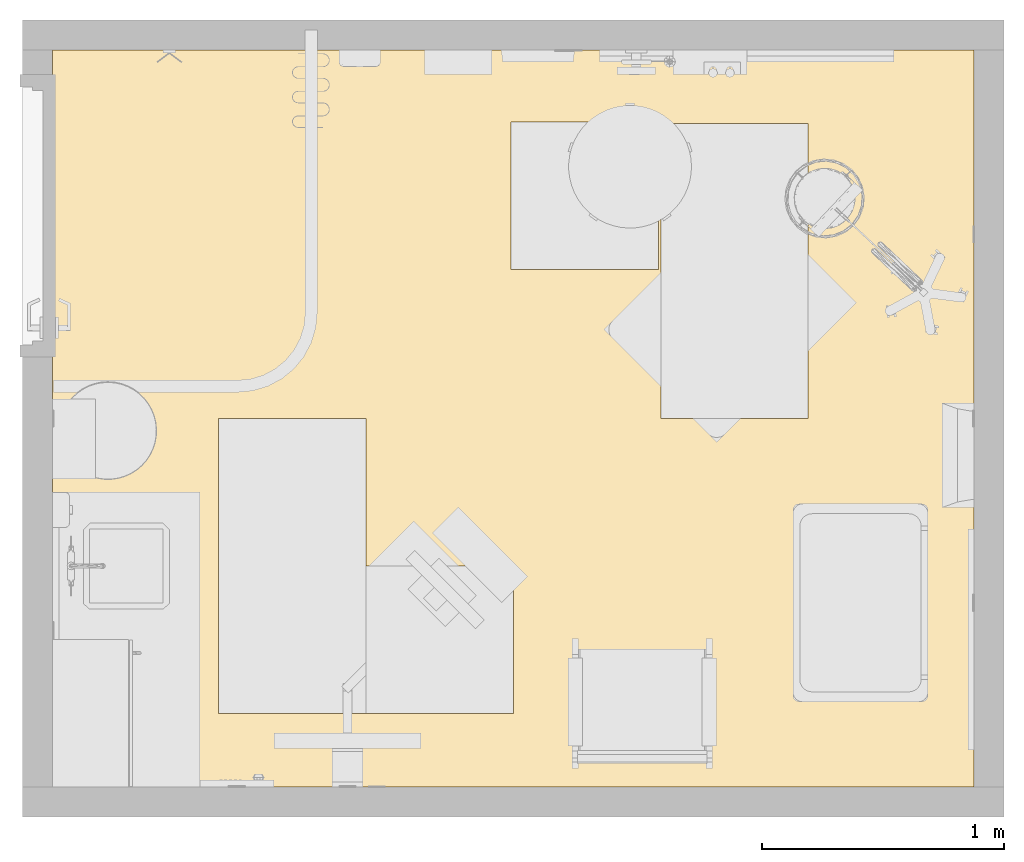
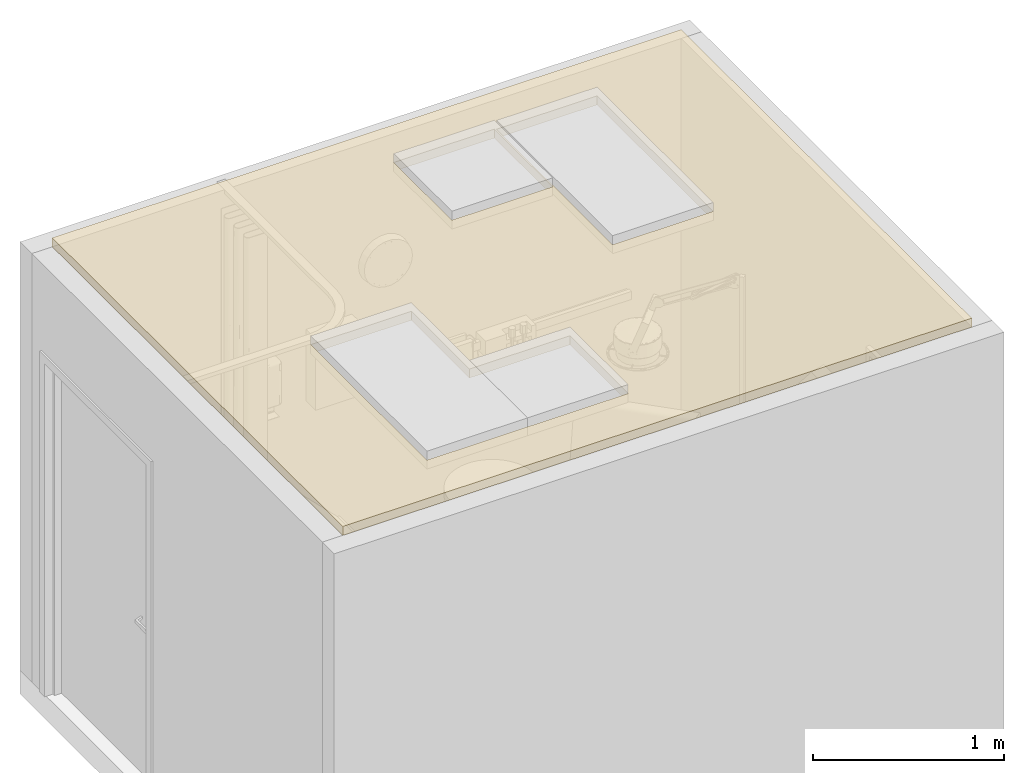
# One storey, part 3 of 9: 1 covering.
"""IFC2X3 building model written with IfcOpenShell, lengths in feet."""

from ifc_helpers import new_model, entity, si_unit, converted_unit, derived_unit, direction, frame, origin, place, context, subcontext, project, spatial, polyline, outline, extrude, material, layer, layer_set, layer_usage, element, save


model = new_model("IFC2X3")

# Units and contexts
model_context = context("Model", 3, precision=0.0001, world=origin(), true_north=direction((6.12303176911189e-17, 1.0)))
body_context = subcontext(model_context, "Body", "Model", "MODEL_VIEW")
ifc_project = project(units=[converted_unit("LENGTHUNIT", "FOOT", entity("IfcRatioMeasure", 0.3048), si_unit("LENGTHUNIT", "METRE"), dimensions=[1, 0, 0, 0, 0, 0, 0]), converted_unit("AREAUNIT", "SQUARE FOOT", entity("IfcRatioMeasure", 0.09290304), si_unit("AREAUNIT", "SQUARE_METRE"), dimensions=[2, 0, 0, 0, 0, 0, 0]), converted_unit("VOLUMEUNIT", "CUBIC FOOT", entity("IfcRatioMeasure", 0.028316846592), si_unit("VOLUMEUNIT", "CUBIC_METRE"), dimensions=[3, 0, 0, 0, 0, 0, 0]), converted_unit("PLANEANGLEUNIT", "DEGREE", entity("IfcRatioMeasure", 0.0174532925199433), si_unit("PLANEANGLEUNIT", "RADIAN"), dimensions=[0, 0, 0, 0, 0, 0, 0]), si_unit("MASSUNIT", "GRAM", prefix="KILO"), derived_unit("MASSDENSITYUNIT", [(si_unit("MASSUNIT", "GRAM", prefix="KILO"), 1), (si_unit("LENGTHUNIT", "METRE"), -3)]), si_unit("TIMEUNIT", "SECOND"), si_unit("FREQUENCYUNIT", "HERTZ"), si_unit("THERMODYNAMICTEMPERATUREUNIT", "DEGREE_CELSIUS"), derived_unit("THERMALTRANSMITTANCEUNIT", [(si_unit("MASSUNIT", "GRAM", prefix="KILO"), 1), (si_unit("THERMODYNAMICTEMPERATUREUNIT", "KELVIN"), -1), (si_unit("TIMEUNIT", "SECOND"), -3)]), derived_unit("VOLUMETRICFLOWRATEUNIT", [(si_unit("LENGTHUNIT", "METRE"), 3), (si_unit("TIMEUNIT", "SECOND"), -1)]), si_unit("ELECTRICCURRENTUNIT", "AMPERE"), si_unit("ELECTRICVOLTAGEUNIT", "VOLT"), si_unit("POWERUNIT", "WATT"), si_unit("FORCEUNIT", "NEWTON"), si_unit("ILLUMINANCEUNIT", "LUX"), si_unit("LUMINOUSFLUXUNIT", "LUMEN"), si_unit("LUMINOUSINTENSITYUNIT", "CANDELA"), derived_unit("USERDEFINED", [(si_unit("MASSUNIT", "GRAM", prefix="KILO"), -1), (si_unit("LENGTHUNIT", "METRE"), -2), (si_unit("TIMEUNIT", "SECOND"), 3), (si_unit("LUMINOUSFLUXUNIT", "LUMEN"), 1)]), derived_unit("LINEARVELOCITYUNIT", [(si_unit("LENGTHUNIT", "METRE"), 1), (si_unit("TIMEUNIT", "SECOND"), -1)]), si_unit("PRESSUREUNIT", "PASCAL"), derived_unit("USERDEFINED", [(si_unit("LENGTHUNIT", "METRE"), -2), (si_unit("MASSUNIT", "GRAM", prefix="KILO"), 1), (si_unit("TIMEUNIT", "SECOND"), -2)])], contexts=[model_context])

# Site, building, storey
site_placement = place(None, origin())
site = spatial("IfcSite", under=ifc_project, at=site_placement, Name="Default", CompositionType="ELEMENT")
building_placement = place(site_placement, origin())
building = spatial("IfcBuilding", under=site, at=building_placement, Name="OUTPATIENT / PACT CLINIC (Ch. 265)", CompositionType="ELEMENT")
storey_placement = place(building_placement, origin())
storey = spatial("IfcBuildingStorey", under=building, at=storey_placement, Name="DATUM", CompositionType="ELEMENT", Elevation=0.0)

# Covering
ifc_material_1 = material(Name="<Unnamed>")
ifc_layer_1 = layer(ifc_material_1, 0.135416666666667)
ifc_material_2 = material(Name="Acoustic Ceiling Tile 24 x 24")
ifc_layer_2 = layer(ifc_material_2, 0.0520833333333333)
ifc_layer_set = layer_set([ifc_layer_1, ifc_layer_2], Name="Compound Ceiling:2' x 2' ACT System")
ifc_layer_usage = layer_usage(ifc_layer_set, "AXIS3", "POSITIVE", 0.0)
covering_placement = place(storey_placement, origin())
element("IfcCovering", 1, at=covering_placement, inside=storey, material=ifc_layer_usage, Name="Compound Ceiling:2' x 2' ACT System", ObjectType="Compound Ceiling:2' x 2' ACT System", PredefinedType="CEILING", context=body_context, shape_type="SweptSolid", body=[
    extrude(outline(polyline([(-5.0, -6.25), (5.0, -6.25), (5.0, 6.25000000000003), (-5.0, 6.25000000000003), (-5.0, -6.25)]), holes=[polyline([(2.02092554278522, 0.0286797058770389), (4.02092554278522, 0.0286797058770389), (4.02092554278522, -1.97132029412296), (2.02092554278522, -1.97132029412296), (2.02092554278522, 0.0286797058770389)]), polyline([(0.0, -2.0), (4.0, -2.0), (4.0, -4.0), (0.0, -4.0), (0.0, -2.0)]), polyline([(-4.0, 4.0), (0.0, 4.0), (0.0, 2.0), (-2.0, 2.0), (-2.0, 0.0), (-4.0, 0.0), (-4.0, 4.0)])]), frame((215.961487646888, -857.823304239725, 9.0), z_axis=(0.0, 0.0, 1.0), x_axis=(0.0, 1.0, 0.0)), (0.0, 0.0, 1.0), 0.1875),
])

save(model, "model.ifc")
